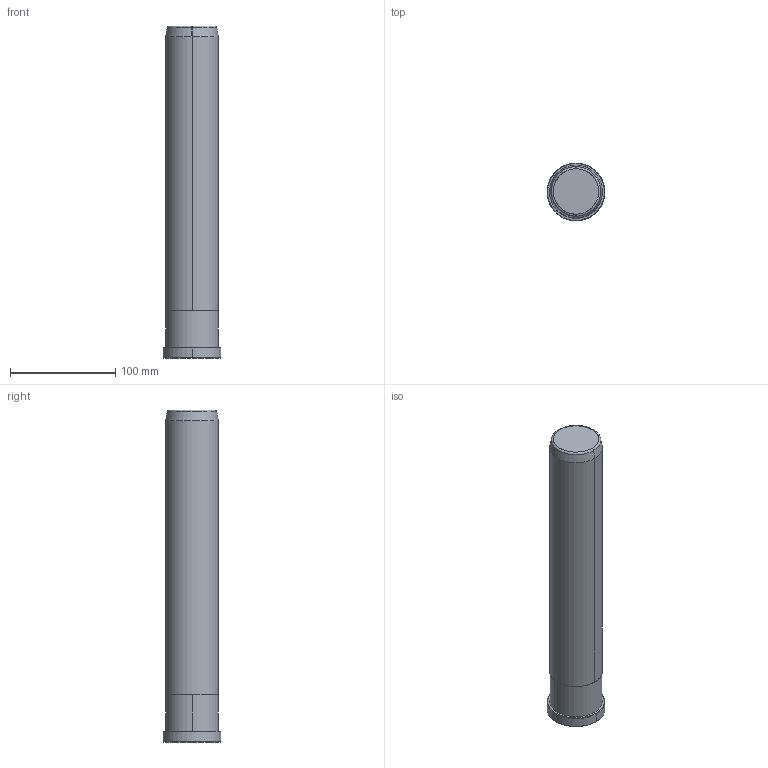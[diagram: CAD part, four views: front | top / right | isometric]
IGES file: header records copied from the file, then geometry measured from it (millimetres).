
Start section: START RECORD GO HERE.
Global section: file name: B80850315.igs; native system: DASSAULT SYSTEMES CATIA V5 R20 - www.3ds.com; preprocessor: CATIA Version 5 Release 20 ; author: Utente; organization: NB04-ASUS; date: 20200419.164413; units: millimetre
Bounding box: 55 x 55 x 315 mm (x, y, z)
Surface area: 53906.2 mm2 (no closed solid volume)
Topology: 0 solids, 0 shells, 20 faces, 80 edges, 80 vertices
Faces by surface type: revolution 16, plane 4
